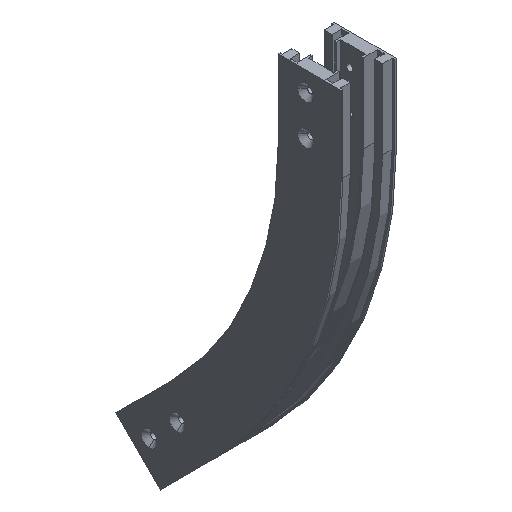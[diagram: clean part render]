
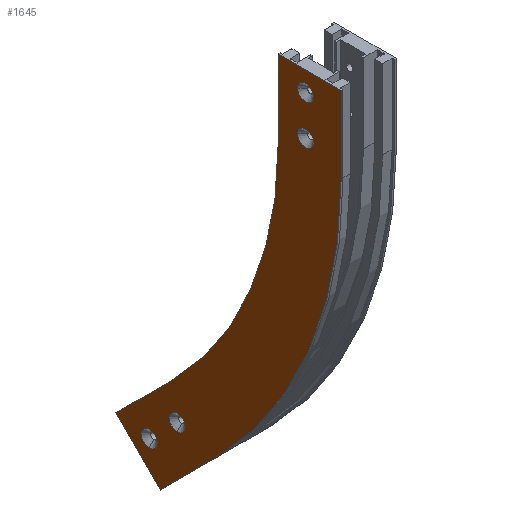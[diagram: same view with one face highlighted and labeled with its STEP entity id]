
A CAD part, isometric view. The second image highlights one B-rep face of the part: STEP entity #1645.
In plain terms, the highlighted planar face has unit normal (-1, 0, 0).
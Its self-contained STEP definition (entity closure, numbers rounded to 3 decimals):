
#18 = VERTEX_POINT ( 'NONE', #601 ) ;
#22 = VERTEX_POINT ( 'NONE', #600 ) ;
#36 = VERTEX_POINT ( 'NONE', #596 ) ;
#42 = VERTEX_POINT ( 'NONE', #594 ) ;
#45 = VERTEX_POINT ( 'NONE', #593 ) ;
#52 = VERTEX_POINT ( 'NONE', #590 ) ;
#101 = VERTEX_POINT ( 'NONE', #573 ) ;
#104 = VERTEX_POINT ( 'NONE', #571 ) ;
#227 = VERTEX_POINT ( 'NONE', #539 ) ;
#313 = DIRECTION ( 'NONE',  ( 0., -1., 0. ) ) ;
#314 = DIRECTION ( 'NONE',  ( -1., 0., 0. ) ) ;
#315 = CARTESIAN_POINT ( 'NONE',  ( -35., 39.8, -100. ) ) ;
#316 = PLANE ( 'NONE',  #2460 ) ;
#391 = CARTESIAN_POINT ( 'NONE',  ( -35., 118.304, -481.696 ) ) ;
#396 = CARTESIAN_POINT ( 'NONE',  ( -35., 167.518, -477.837 ) ) ;
#414 = CARTESIAN_POINT ( 'NONE',  ( -35., 14.8, -75. ) ) ;
#417 = CARTESIAN_POINT ( 'NONE',  ( -35., -39.8, 0. ) ) ;
#427 = CARTESIAN_POINT ( 'NONE',  ( -35., 174.589, -425.411 ) ) ;
#428 = CARTESIAN_POINT ( 'NONE',  ( -35., -5.2, -75. ) ) ;
#430 = CARTESIAN_POINT ( 'NONE',  ( -35., 202.874, -493.192 ) ) ;
#539 = CARTESIAN_POINT ( 'NONE',  ( -35., 245.3, -496.121 ) ) ;
#571 = CARTESIAN_POINT ( 'NONE',  ( -35., 167.518, -457.837 ) ) ;
#573 = CARTESIAN_POINT ( 'NONE',  ( -35., 14.8, -25. ) ) ;
#590 = CARTESIAN_POINT ( 'NONE',  ( -35., 39.8, -100. ) ) ;
#593 = CARTESIAN_POINT ( 'NONE',  ( -35., 39.8, 0. ) ) ;
#594 = CARTESIAN_POINT ( 'NONE',  ( -35., -39.8, -100. ) ) ;
#596 = CARTESIAN_POINT ( 'NONE',  ( -35., -5.2, -25. ) ) ;
#600 = CARTESIAN_POINT ( 'NONE',  ( -35., 202.874, -513.192 ) ) ;
#601 = CARTESIAN_POINT ( 'NONE',  ( -35., 189.014, -552.407 ) ) ;
#714 = VERTEX_POINT ( 'NONE', #430 ) ;
#716 = VERTEX_POINT ( 'NONE', #428 ) ;
#717 = VERTEX_POINT ( 'NONE', #427 ) ;
#727 = VERTEX_POINT ( 'NONE', #417 ) ;
#730 = VERTEX_POINT ( 'NONE', #414 ) ;
#748 = VERTEX_POINT ( 'NONE', #396 ) ;
#753 = VERTEX_POINT ( 'NONE', #391 ) ;
#910 = DIRECTION ( 'NONE',  ( 0., -0.707, -0.707 ) ) ;
#911 = CARTESIAN_POINT ( 'NONE',  ( -35., 245.3, -496.121 ) ) ;
#913 = DIRECTION ( 'NONE',  ( 0., 0., 1. ) ) ;
#914 = CARTESIAN_POINT ( 'NONE',  ( -35., 39.8, -100. ) ) ;
#918 = DIRECTION ( 'NONE',  ( 0., -1., 0. ) ) ;
#920 = CARTESIAN_POINT ( 'NONE',  ( -35., 39.8, 0. ) ) ;
#922 = DIRECTION ( 'NONE',  ( 0., -1., 0. ) ) ;
#923 = DIRECTION ( 'NONE',  ( 1., 0., 0. ) ) ;
#924 = CARTESIAN_POINT ( 'NONE',  ( -35., 202.874, -503.192 ) ) ;
#926 = DIRECTION ( 'NONE',  ( 0., -1., 0. ) ) ;
#928 = DIRECTION ( 'NONE',  ( 1., 0., 0. ) ) ;
#929 = CARTESIAN_POINT ( 'NONE',  ( -35., 167.518, -467.837 ) ) ;
#931 = DIRECTION ( 'NONE',  ( 0., -1., 0. ) ) ;
#932 = DIRECTION ( 'NONE',  ( 1., 0., 0. ) ) ;
#933 = CARTESIAN_POINT ( 'NONE',  ( -35., 4.8, -75. ) ) ;
#935 = DIRECTION ( 'NONE',  ( 0., -1., 0. ) ) ;
#936 = DIRECTION ( 'NONE',  ( 1., 0., 0. ) ) ;
#938 = CARTESIAN_POINT ( 'NONE',  ( -35., 4.8, -25. ) ) ;
#942 = DIRECTION ( 'NONE',  ( 0., 0., 1. ) ) ;
#943 = CARTESIAN_POINT ( 'NONE',  ( -35., -39.8, -100. ) ) ;
#951 = DIRECTION ( 'NONE',  ( 0., 0., -1. ) ) ;
#953 = DIRECTION ( 'NONE',  ( 1., 0., 0. ) ) ;
#954 = CARTESIAN_POINT ( 'NONE',  ( -35., 500., -100. ) ) ;
#1047 = DIRECTION ( 'NONE',  ( 0., 0., -1. ) ) ;
#1050 = DIRECTION ( 'NONE',  ( 1., 0., 0. ) ) ;
#1051 = CARTESIAN_POINT ( 'NONE',  ( -35., 500., -100. ) ) ;
#1065 = DIRECTION ( 'NONE',  ( 0., 0.707, -0.707 ) ) ;
#1066 = CARTESIAN_POINT ( 'NONE',  ( -35., 118.304, -481.696 ) ) ;
#1164 = DIRECTION ( 'NONE',  ( 0., 0.707, -0.707 ) ) ;
#1165 = CARTESIAN_POINT ( 'NONE',  ( -35., 174.589, -425.411 ) ) ;
#1228 = DIRECTION ( 'NONE',  ( 0., -1., 0. ) ) ;
#1229 = DIRECTION ( 'NONE',  ( 1., 0., 0. ) ) ;
#1231 = CARTESIAN_POINT ( 'NONE',  ( -35., 4.8, -25. ) ) ;
#1243 = DIRECTION ( 'NONE',  ( 0., -1., 0. ) ) ;
#1244 = DIRECTION ( 'NONE',  ( 1., 0., 0. ) ) ;
#1246 = CARTESIAN_POINT ( 'NONE',  ( -35., 4.8, -75. ) ) ;
#1261 = DIRECTION ( 'NONE',  ( 0., -1., 0. ) ) ;
#1262 = DIRECTION ( 'NONE',  ( 1., 0., 0. ) ) ;
#1264 = CARTESIAN_POINT ( 'NONE',  ( -35., 167.518, -467.837 ) ) ;
#1279 = DIRECTION ( 'NONE',  ( 0., -1., 0. ) ) ;
#1281 = DIRECTION ( 'NONE',  ( 1., 0., 0. ) ) ;
#1282 = CARTESIAN_POINT ( 'NONE',  ( -35., 202.874, -503.192 ) ) ;
#1645 = ADVANCED_FACE ( 'NONE', ( #3066, #3065, #3064, #3063, #3062 ), #316, .T. ) ;
#1878 = VECTOR ( 'NONE', #910, 1000. ) ;
#1879 = LINE ( 'NONE', #911, #1878 ) ;
#1880 = VECTOR ( 'NONE', #913, 1000. ) ;
#1881 = LINE ( 'NONE', #914, #1880 ) ;
#1884 = VECTOR ( 'NONE', #918, 1000. ) ;
#1885 = CIRCLE ( 'NONE', #2342, 10. ) ;
#1886 = LINE ( 'NONE', #920, #1884 ) ;
#1887 = CIRCLE ( 'NONE', #2354, 10. ) ;
#1888 = CIRCLE ( 'NONE', #2388, 10. ) ;
#1889 = CIRCLE ( 'NONE', #2401, 10. ) ;
#1893 = VECTOR ( 'NONE', #942, 1000. ) ;
#1895 = LINE ( 'NONE', #943, #1893 ) ;
#1899 = CIRCLE ( 'NONE', #2412, 539.8 ) ;
#1948 = CIRCLE ( 'NONE', #2284, 460.2 ) ;
#1958 = VECTOR ( 'NONE', #1065, 1000. ) ;
#1959 = LINE ( 'NONE', #1066, #1958 ) ;
#2026 = VECTOR ( 'NONE', #1164, 1000. ) ;
#2027 = LINE ( 'NONE', #1165, #2026 ) ;
#2062 = CIRCLE ( 'NONE', #2292, 10. ) ;
#2069 = CIRCLE ( 'NONE', #2294, 10. ) ;
#2077 = CIRCLE ( 'NONE', #2297, 10. ) ;
#2088 = CIRCLE ( 'NONE', #2300, 10. ) ;
#2284 = AXIS2_PLACEMENT_3D ( 'NONE', #1051, #1050, #1047 ) ;
#2292 = AXIS2_PLACEMENT_3D ( 'NONE', #1231, #1229, #1228 ) ;
#2294 = AXIS2_PLACEMENT_3D ( 'NONE', #1246, #1244, #1243 ) ;
#2297 = AXIS2_PLACEMENT_3D ( 'NONE', #1264, #1262, #1261 ) ;
#2300 = AXIS2_PLACEMENT_3D ( 'NONE', #1282, #1281, #1279 ) ;
#2342 = AXIS2_PLACEMENT_3D ( 'NONE', #924, #923, #922 ) ;
#2354 = AXIS2_PLACEMENT_3D ( 'NONE', #929, #928, #926 ) ;
#2388 = AXIS2_PLACEMENT_3D ( 'NONE', #933, #932, #931 ) ;
#2401 = AXIS2_PLACEMENT_3D ( 'NONE', #938, #936, #935 ) ;
#2412 = AXIS2_PLACEMENT_3D ( 'NONE', #954, #953, #951 ) ;
#2460 = AXIS2_PLACEMENT_3D ( 'NONE', #315, #314, #313 ) ;
#2656 = EDGE_CURVE ( 'NONE', #714, #22, #2088, .T. ) ;
#2661 = EDGE_CURVE ( 'NONE', #104, #748, #2077, .T. ) ;
#2666 = EDGE_CURVE ( 'NONE', #716, #730, #2069, .T. ) ;
#2670 = EDGE_CURVE ( 'NONE', #36, #101, #2062, .T. ) ;
#2689 = EDGE_CURVE ( 'NONE', #717, #227, #2027, .T. ) ;
#2723 = EDGE_CURVE ( 'NONE', #753, #18, #1959, .T. ) ;
#2728 = EDGE_CURVE ( 'NONE', #52, #717, #1948, .T. ) ;
#2754 = EDGE_CURVE ( 'NONE', #42, #753, #1899, .T. ) ;
#2757 = EDGE_CURVE ( 'NONE', #42, #727, #1895, .T. ) ;
#2759 = EDGE_CURVE ( 'NONE', #101, #36, #1889, .T. ) ;
#2760 = EDGE_CURVE ( 'NONE', #730, #716, #1888, .T. ) ;
#2761 = EDGE_CURVE ( 'NONE', #748, #104, #1887, .T. ) ;
#2762 = EDGE_CURVE ( 'NONE', #22, #714, #1885, .T. ) ;
#2763 = EDGE_CURVE ( 'NONE', #45, #727, #1886, .T. ) ;
#2765 = EDGE_CURVE ( 'NONE', #52, #45, #1881, .T. ) ;
#2766 = EDGE_CURVE ( 'NONE', #227, #18, #1879, .T. ) ;
#3062 = FACE_OUTER_BOUND ( 'NONE', #3848, .T. ) ;
#3063 = FACE_BOUND ( 'NONE', #3785, .T. ) ;
#3064 = FACE_BOUND ( 'NONE', #3866, .T. ) ;
#3065 = FACE_BOUND ( 'NONE', #3856, .T. ) ;
#3066 = FACE_BOUND ( 'NONE', #3827, .T. ) ;
#3543 = ORIENTED_EDGE ( 'NONE', *, *, #2670, .T. ) ;
#3544 = ORIENTED_EDGE ( 'NONE', *, *, #2759, .T. ) ;
#3545 = ORIENTED_EDGE ( 'NONE', *, *, #2666, .T. ) ;
#3546 = ORIENTED_EDGE ( 'NONE', *, *, #2760, .T. ) ;
#3547 = ORIENTED_EDGE ( 'NONE', *, *, #2661, .T. ) ;
#3548 = ORIENTED_EDGE ( 'NONE', *, *, #2761, .T. ) ;
#3549 = ORIENTED_EDGE ( 'NONE', *, *, #2656, .T. ) ;
#3550 = ORIENTED_EDGE ( 'NONE', *, *, #2762, .T. ) ;
#3551 = ORIENTED_EDGE ( 'NONE', *, *, #2763, .F. ) ;
#3552 = ORIENTED_EDGE ( 'NONE', *, *, #2765, .F. ) ;
#3553 = ORIENTED_EDGE ( 'NONE', *, *, #2728, .T. ) ;
#3554 = ORIENTED_EDGE ( 'NONE', *, *, #2689, .T. ) ;
#3555 = ORIENTED_EDGE ( 'NONE', *, *, #2766, .T. ) ;
#3556 = ORIENTED_EDGE ( 'NONE', *, *, #2723, .F. ) ;
#3557 = ORIENTED_EDGE ( 'NONE', *, *, #2754, .F. ) ;
#3558 = ORIENTED_EDGE ( 'NONE', *, *, #2757, .T. ) ;
#3785 = EDGE_LOOP ( 'NONE', ( #3549, #3550 ) ) ;
#3827 = EDGE_LOOP ( 'NONE', ( #3543, #3544 ) ) ;
#3848 = EDGE_LOOP ( 'NONE', ( #3551, #3552, #3553, #3554, #3555, #3556, #3557, #3558 ) ) ;
#3856 = EDGE_LOOP ( 'NONE', ( #3545, #3546 ) ) ;
#3866 = EDGE_LOOP ( 'NONE', ( #3547, #3548 ) ) ;
